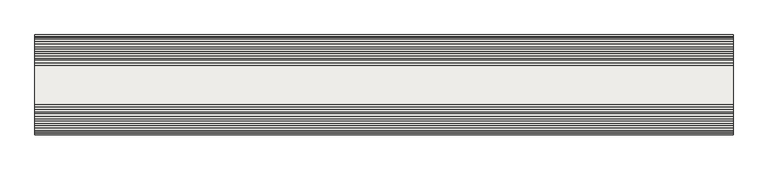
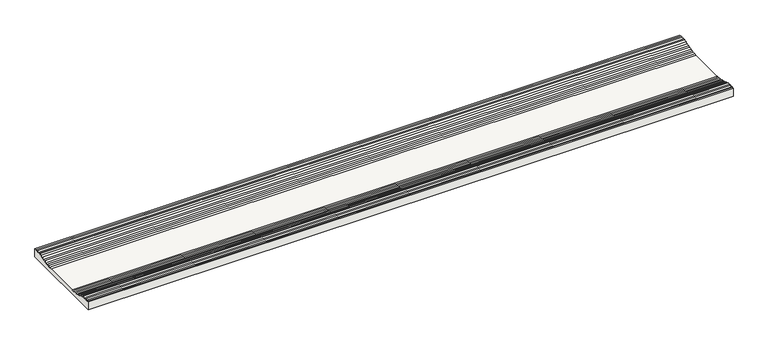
"""IFC4 building model written with IfcOpenShell, lengths in millimetres: slab geometry, ROSA GRES_204 : Pieza 204_Indugres_Indubeige_Tecno."""

from ifc_helpers import new_model, si_unit, point, frame, frame_2d, origin, place, context, project, spatial, polyline, circle_curve, trimmed, segment, composite_curve, outline, extrude, source, transform, mapped, element, save


def slab_a76cdf63(model_context):
    return source(origin(), model_context, "Body", "SweptSolid", [
        extrude(outline(composite_curve([segment(polyline([(0.0, 0.0), (0.0, 22.8672484), (3.4834385, 22.8672484)]), True, "CONTINUOUS"), segment(trimmed(circle_curve(frame_2d((3.4834385, 24.9459193)), 2.078671), [point((3.4834385, 22.8672484))], [point((5.3933441, 24.1254722))], True, "CARTESIAN"), True, "CONTINUOUS"), segment(trimmed(circle_curve(frame_2d((8.4772441, 27.2443435)), 4.3860914), [point((5.3933441, 24.1254722))], [point((11.4768535, 24.0443215))], True, "CARTESIAN"), True, "CONTINUOUS"), segment(trimmed(circle_curve(frame_2d((14.4834385, 27.2619892)), 4.4037415), [point((11.4768535, 24.0443215))], [point((17.4838192, 24.0385354))], True, "CARTESIAN"), True, "CONTINUOUS"), segment(trimmed(circle_curve(frame_2d((20.4772441, 27.2443435)), 4.3860914), [point((17.4838192, 24.0385354))], [point((23.5481555, 24.1126825))], True, "CARTESIAN"), True, "CONTINUOUS"), segment(trimmed(circle_curve(frame_2d((27.5873515, 25.8222711)), 4.3860914), [point((23.5481555, 24.1126825))], [point((29.0929084, 21.702672))], True, "CARTESIAN"), True, "CONTINUOUS"), segment(trimmed(circle_curve(frame_2d((32.9910112, 23.7132919)), 4.3860914), [point((29.0929084, 21.702672))], [point((34.6740913, 19.6629784))], True, "CARTESIAN"), True, "CONTINUOUS"), segment(trimmed(circle_curve(frame_2d((38.5344705, 21.7451095)), 4.3860914), [point((34.6740913, 19.6629784))], [point((40.406127, 17.7784107))], True, "CARTESIAN"), True, "CONTINUOUS"), segment(trimmed(circle_curve(frame_2d((44.1065968, 20.1330489)), 4.3860914), [point((40.406127, 17.7784107))], [point((46.146977, 16.2504407))], True, "CARTESIAN"), True, "CONTINUOUS"), segment(trimmed(circle_curve(frame_2d((49.7914497, 18.690854)), 4.3860914), [point((46.146977, 16.2504407))], [point((52.0386105, 14.9241491))], True, "CARTESIAN"), True, "CONTINUOUS"), segment(trimmed(circle_curve(frame_2d((55.5496933, 17.5528551)), 4.3860914), [point((52.0386105, 14.9241491))], [point((57.8759715, 13.8344915))], True, "CARTESIAN"), True, "CONTINUOUS"), segment(trimmed(circle_curve(frame_2d((61.3099097, 16.563203)), 4.3860914), [point((57.8759715, 13.8344915))], [point((63.8574067, 12.9927609))], True, "CARTESIAN"), True, "CONTINUOUS"), segment(trimmed(circle_curve(frame_2d((67.1546539, 15.8851576)), 4.3860914), [point((63.8574067, 12.9927609))], [point((69.7580788, 12.3552884))], True, "CARTESIAN"), True, "CONTINUOUS"), segment(trimmed(circle_curve(frame_2d((72.9411902, 15.372837)), 4.3860914), [point((69.7580788, 12.3552884))], [point((75.6586011, 11.9299493))], True, "CARTESIAN"), True, "CONTINUOUS"), segment(polyline([(75.6586011, 11.9299493), (174.3413989, 11.9299493)]), True, "CONTINUOUS"), segment(trimmed(circle_curve(frame_2d((177.0588098, 15.372837)), 4.3860914), [point((174.3413989, 11.9299493))], [point((180.2419212, 12.3552884))], True, "CARTESIAN"), True, "CONTINUOUS"), segment(trimmed(circle_curve(frame_2d((182.8453461, 15.8851576)), 4.3860914), [point((180.2419212, 12.3552884))], [point((186.1425933, 12.9927609))], True, "CARTESIAN"), True, "CONTINUOUS"), segment(trimmed(circle_curve(frame_2d((188.6900903, 16.563203)), 4.3860914), [point((186.1425933, 12.9927609))], [point((192.1240285, 13.8344915))], True, "CARTESIAN"), True, "CONTINUOUS"), segment(trimmed(circle_curve(frame_2d((194.4503067, 17.5528551)), 4.3860914), [point((192.1240285, 13.8344915))], [point((197.9613895, 14.9241491))], True, "CARTESIAN"), True, "CONTINUOUS"), segment(trimmed(circle_curve(frame_2d((200.2085503, 18.690854)), 4.3860914), [point((197.9613895, 14.9241491))], [point((203.853023, 16.2504407))], True, "CARTESIAN"), True, "CONTINUOUS"), segment(trimmed(circle_curve(frame_2d((205.8934032, 20.1330489)), 4.3860914), [point((203.853023, 16.2504407))], [point((209.593873, 17.7784107))], True, "CARTESIAN"), True, "CONTINUOUS"), segment(trimmed(circle_curve(frame_2d((211.4655295, 21.7451095)), 4.3860914), [point((209.593873, 17.7784107))], [point((215.3259087, 19.6629784))], True, "CARTESIAN"), True, "CONTINUOUS"), segment(trimmed(circle_curve(frame_2d((217.0089888, 23.7132919)), 4.3860914), [point((215.3259087, 19.6629784))], [point((220.9070916, 21.702672))], True, "CARTESIAN"), True, "CONTINUOUS"), segment(trimmed(circle_curve(frame_2d((222.4126485, 25.8222711)), 4.3860914), [point((220.9070916, 21.702672))], [point((226.4518445, 24.1126825))], True, "CARTESIAN"), True, "CONTINUOUS"), segment(trimmed(circle_curve(frame_2d((229.5227559, 27.2443435)), 4.3860914), [point((226.4518445, 24.1126825))], [point((232.5161808, 24.0385354))], True, "CARTESIAN"), True, "CONTINUOUS"), segment(trimmed(circle_curve(frame_2d((235.5165615, 27.2619892)), 4.4037415), [point((232.5161808, 24.0385354))], [point((238.5231465, 24.0443215))], True, "CARTESIAN"), True, "CONTINUOUS"), segment(trimmed(circle_curve(frame_2d((241.5227559, 27.2443435)), 4.3860914), [point((238.5231465, 24.0443215))], [point((244.6066559, 24.1254722))], True, "CARTESIAN"), True, "CONTINUOUS"), segment(trimmed(circle_curve(frame_2d((246.5165615, 24.9459193)), 2.078671), [point((244.6066559, 24.1254722))], [point((246.5165615, 22.8672484))], True, "CARTESIAN"), True, "CONTINUOUS"), segment(polyline([(246.5165615, 22.8672484), (250.0, 22.8672484), (250.0, 0.0), (0.0, 0.0)]), True, "CONTINUOUS")], self_intersect=False)), frame((0.0, 0.0, 0.0), z_axis=(1.0, 0.0, 0.0), x_axis=(0.0, 1.0, 0.0)), (0.0, 0.0, 1.0), 1750.0),
    ])


if __name__ == "__main__":
    model = new_model("IFC4")
    model_context = context("Model", 3, world=origin())
    ifc_project = project(units=[si_unit("LENGTHUNIT", "METRE", prefix="MILLI")], contexts=[model_context])
    site = spatial("IfcSite", under=ifc_project)
    building = spatial("IfcBuilding", under=site)
    placement = place(None, origin())
    slab_shape = slab_a76cdf63(model_context)
    element("IfcSlab", 1, ObjectType="ROSA GRES_204 : Pieza 204_Indugres_Indubeige_Tecno", at=placement, inside=building, context=model_context, shape_type="MappedRepresentation", body=[
        mapped(slab_shape, transform((0.0, 0.0, 0.0), x_axis=(1.0, 0.0, 0.0), y_axis=(0.0, 1.0, 0.0), z_axis=(0.0, 0.0, 1.0))),
    ])
    save(model, "model.ifc")
